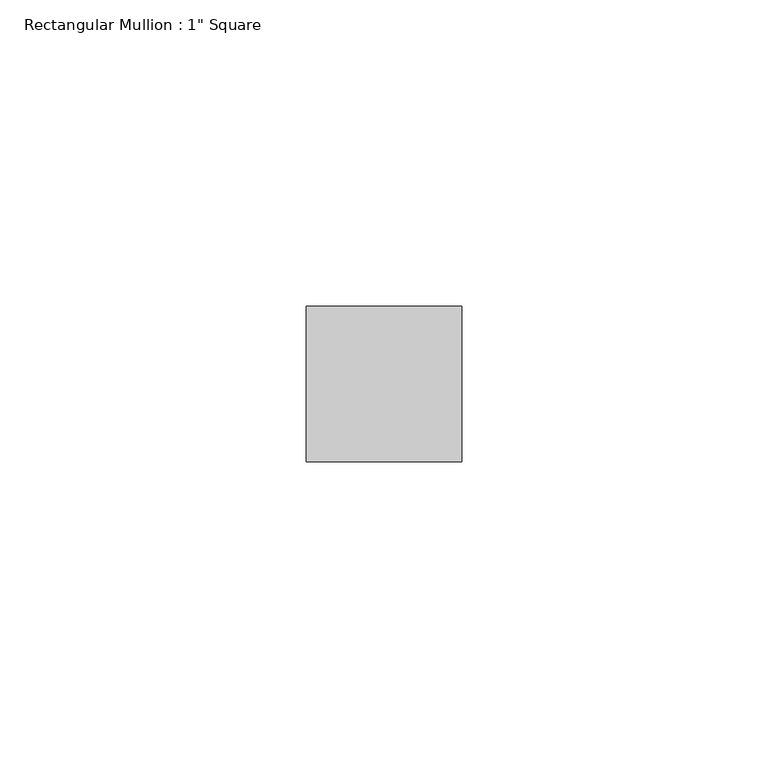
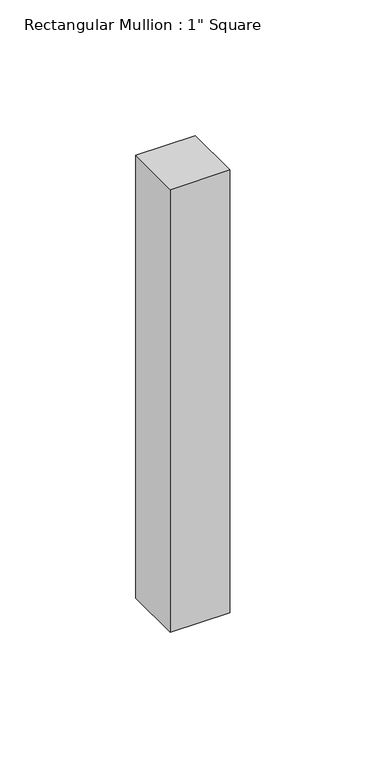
"""IFC4 building model written with IfcOpenShell, lengths in millimetres: member geometry."""

from ifc_helpers import new_model, si_unit, frame, origin, place, context, project, spatial, polyline, outline, extrude, source, transform, mapped, element, save


def member_54d4a950(model_context):
    return source(origin(), model_context, "Body", "SweptSolid", [
        extrude(outline(polyline([(12.7, 12.7), (12.7, -12.7), (-12.7, -12.7), (-12.7, 12.7), (12.7, 12.7)])), frame((0.0, 0.0, -199.0731938), z_axis=(0.0, 0.0, 1.0), x_axis=(1.0, 0.0, 0.0)), (0.0, 0.0, 1.0), 199.0731938),
    ])


if __name__ == "__main__":
    model = new_model("IFC4")
    model_context = context("Model", 3, world=origin())
    ifc_project = project(units=[si_unit("LENGTHUNIT", "METRE", prefix="MILLI")], contexts=[model_context])
    site = spatial("IfcSite", under=ifc_project)
    building = spatial("IfcBuilding", under=site)
    placement = place(None, origin())
    member_shape = member_54d4a950(model_context)
    element("IfcMember", 1, ObjectType="Rectangular Mullion : 1\" Square", at=placement, inside=building, context=model_context, shape_type="MappedRepresentation", body=[
        mapped(member_shape, transform((0.0, 0.0, 0.0), x_axis=(1.0, 0.0, 0.0), y_axis=(0.0, 1.0, 0.0), z_axis=(0.0, 0.0, 1.0))),
    ])
    save(model, "model.ifc")
